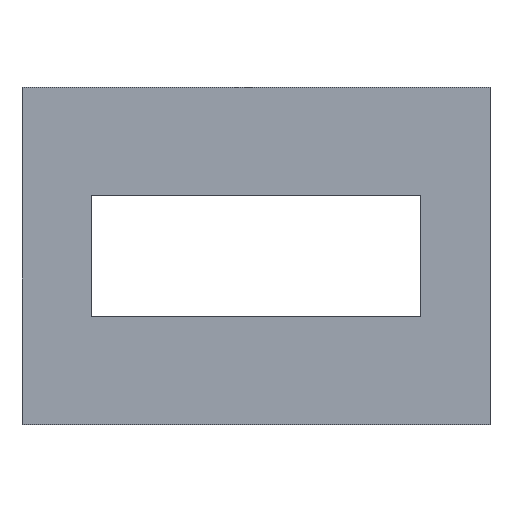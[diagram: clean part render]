
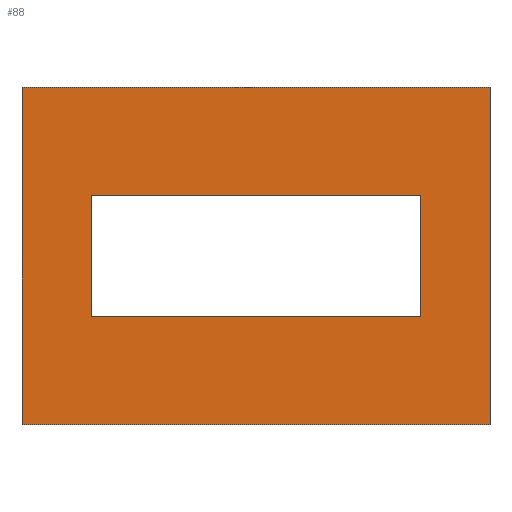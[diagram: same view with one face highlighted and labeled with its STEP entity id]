
A CAD part, top view. The second image highlights one B-rep face of the part: STEP entity #88.
In plain terms, the highlighted planar face has unit normal (0, 0, 1).
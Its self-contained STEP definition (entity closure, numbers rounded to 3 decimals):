
#24 = VERTEX_POINT('',#25);
#25 = CARTESIAN_POINT('',(-12.5,-9.,4.));
#40 = VERTEX_POINT('',#41);
#41 = CARTESIAN_POINT('',(-12.5,9.,4.));
#47 = EDGE_CURVE('',#24,#40,#48,.T.);
#48 = LINE('',#49,#50);
#49 = CARTESIAN_POINT('',(-12.5,-9.,4.));
#50 = VECTOR('',#51,1.);
#51 = DIRECTION('',(0.,1.,0.));
#70 = EDGE_CURVE('',#24,#71,#73,.T.);
#71 = VERTEX_POINT('',#72);
#72 = CARTESIAN_POINT('',(12.5,-9.,4.));
#73 = LINE('',#74,#75);
#74 = CARTESIAN_POINT('',(-12.5,-9.,4.));
#75 = VECTOR('',#76,1.);
#76 = DIRECTION('',(1.,0.,0.));
#88 = ADVANCED_FACE('',(#89,#107),#141,.T.);
#89 = FACE_BOUND('',#90,.T.);
#90 = EDGE_LOOP('',(#91,#92,#93,#101));
#91 = ORIENTED_EDGE('',*,*,#47,.F.);
#92 = ORIENTED_EDGE('',*,*,#70,.T.);
#93 = ORIENTED_EDGE('',*,*,#94,.T.);
#94 = EDGE_CURVE('',#71,#95,#97,.T.);
#95 = VERTEX_POINT('',#96);
#96 = CARTESIAN_POINT('',(12.5,9.,4.));
#97 = LINE('',#98,#99);
#98 = CARTESIAN_POINT('',(12.5,-9.,4.));
#99 = VECTOR('',#100,1.);
#100 = DIRECTION('',(0.,1.,0.));
#101 = ORIENTED_EDGE('',*,*,#102,.F.);
#102 = EDGE_CURVE('',#40,#95,#103,.T.);
#103 = LINE('',#104,#105);
#104 = CARTESIAN_POINT('',(-12.5,9.,4.));
#105 = VECTOR('',#106,1.);
#106 = DIRECTION('',(1.,0.,0.));
#107 = FACE_BOUND('',#108,.T.);
#108 = EDGE_LOOP('',(#109,#119,#127,#135));
#109 = ORIENTED_EDGE('',*,*,#110,.T.);
#110 = EDGE_CURVE('',#111,#113,#115,.T.);
#111 = VERTEX_POINT('',#112);
#112 = CARTESIAN_POINT('',(8.8,-3.25,4.));
#113 = VERTEX_POINT('',#114);
#114 = CARTESIAN_POINT('',(-8.8,-3.25,4.));
#115 = LINE('',#116,#117);
#116 = CARTESIAN_POINT('',(-10.65,-3.25,4.));
#117 = VECTOR('',#118,1.);
#118 = DIRECTION('',(-1.,0.,0.));
#119 = ORIENTED_EDGE('',*,*,#120,.T.);
#120 = EDGE_CURVE('',#113,#121,#123,.T.);
#121 = VERTEX_POINT('',#122);
#122 = CARTESIAN_POINT('',(-8.8,3.25,4.));
#123 = LINE('',#124,#125);
#124 = CARTESIAN_POINT('',(-8.8,-6.125,4.));
#125 = VECTOR('',#126,1.);
#126 = DIRECTION('',(0.,1.,0.));
#127 = ORIENTED_EDGE('',*,*,#128,.F.);
#128 = EDGE_CURVE('',#129,#121,#131,.T.);
#129 = VERTEX_POINT('',#130);
#130 = CARTESIAN_POINT('',(8.8,3.25,4.));
#131 = LINE('',#132,#133);
#132 = CARTESIAN_POINT('',(-10.65,3.25,4.));
#133 = VECTOR('',#134,1.);
#134 = DIRECTION('',(-1.,0.,0.));
#135 = ORIENTED_EDGE('',*,*,#136,.F.);
#136 = EDGE_CURVE('',#111,#129,#137,.T.);
#137 = LINE('',#138,#139);
#138 = CARTESIAN_POINT('',(8.8,-6.125,4.));
#139 = VECTOR('',#140,1.);
#140 = DIRECTION('',(0.,1.,0.));
#141 = PLANE('',#142);
#142 = AXIS2_PLACEMENT_3D('',#143,#144,#145);
#143 = CARTESIAN_POINT('',(-12.5,-9.,4.));
#144 = DIRECTION('',(0.,0.,1.));
#145 = DIRECTION('',(1.,0.,0.));
